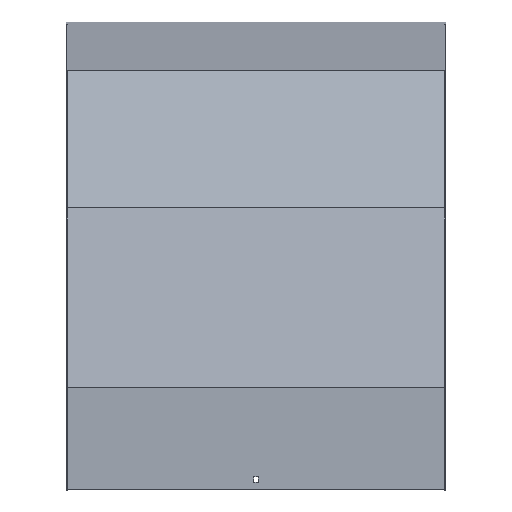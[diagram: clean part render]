
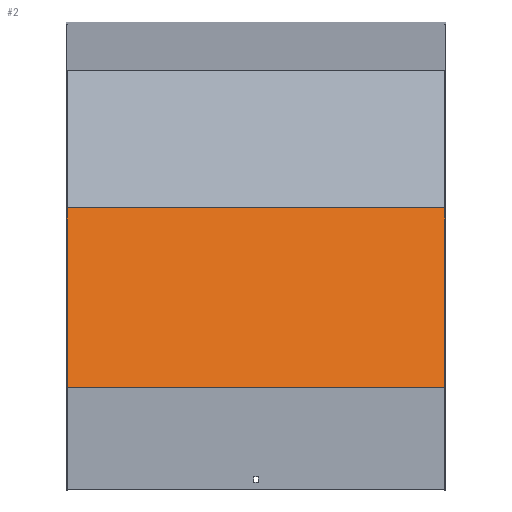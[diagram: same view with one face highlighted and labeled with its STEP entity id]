
A CAD part, top view. The second image highlights one B-rep face of the part: STEP entity #2.
In plain terms, the highlighted planar face has unit normal (0, 0.259, 0.966).
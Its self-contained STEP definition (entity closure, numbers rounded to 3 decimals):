
#2 = ADVANCED_FACE ( 'NONE', ( #961 ), #549, .F. ) ;
#42 = LINE ( 'NONE', #1075, #628 ) ;
#54 = AXIS2_PLACEMENT_3D ( 'NONE', #875, #1042, #367 ) ;
#81 = VECTOR ( 'NONE', #965, 1000. ) ;
#110 = CARTESIAN_POINT ( 'NONE',  ( -301.5, -562.743, 745.376 ) ) ;
#122 = CARTESIAN_POINT ( 'NONE',  ( 301.5, -562.743, 745.376 ) ) ;
#204 = ORIENTED_EDGE ( 'NONE', *, *, #1009, .F. ) ;
#212 = LINE ( 'NONE', #122, #594 ) ;
#286 = VERTEX_POINT ( 'NONE', #1020 ) ;
#367 = DIRECTION ( 'NONE',  ( 0., 0.966, -0.259 ) ) ;
#410 = CARTESIAN_POINT ( 'NONE',  ( -301.5, -275.871, 668.509 ) ) ;
#425 = LINE ( 'NONE', #765, #481 ) ;
#434 = CARTESIAN_POINT ( 'NONE',  ( 301.5, -275.871, 668.509 ) ) ;
#443 = VERTEX_POINT ( 'NONE', #410 ) ;
#453 = ORIENTED_EDGE ( 'NONE', *, *, #926, .F. ) ;
#481 = VECTOR ( 'NONE', #1104, 1000. ) ;
#549 = PLANE ( 'NONE',  #54 ) ;
#550 = ORIENTED_EDGE ( 'NONE', *, *, #805, .T. ) ;
#565 = EDGE_LOOP ( 'NONE', ( #880, #204, #453, #550 ) ) ;
#570 = VERTEX_POINT ( 'NONE', #608 ) ;
#594 = VECTOR ( 'NONE', #816, 1000. ) ;
#608 = CARTESIAN_POINT ( 'NONE',  ( 301.5, -562.743, 745.376 ) ) ;
#628 = VECTOR ( 'NONE', #634, 1000. ) ;
#634 = DIRECTION ( 'NONE',  ( 0., -0.966, 0.259 ) ) ;
#686 = EDGE_CURVE ( 'NONE', #443, #1038, #425, .T. ) ;
#765 = CARTESIAN_POINT ( 'NONE',  ( -301.5, -281.047, 669.896 ) ) ;
#805 = EDGE_CURVE ( 'NONE', #286, #443, #1026, .T. ) ;
#816 = DIRECTION ( 'NONE',  ( -1., 0., 0. ) ) ;
#875 = CARTESIAN_POINT ( 'NONE',  ( 301.5, -281.047, 669.896 ) ) ;
#880 = ORIENTED_EDGE ( 'NONE', *, *, #686, .T. ) ;
#926 = EDGE_CURVE ( 'NONE', #286, #570, #42, .T. ) ;
#961 = FACE_OUTER_BOUND ( 'NONE', #565, .T. ) ;
#965 = DIRECTION ( 'NONE',  ( -1., 0., 0. ) ) ;
#1009 = EDGE_CURVE ( 'NONE', #570, #1038, #212, .T. ) ;
#1020 = CARTESIAN_POINT ( 'NONE',  ( 301.5, -275.871, 668.509 ) ) ;
#1026 = LINE ( 'NONE', #434, #81 ) ;
#1038 = VERTEX_POINT ( 'NONE', #110 ) ;
#1042 = DIRECTION ( 'NONE',  ( 0., -0.259, -0.966 ) ) ;
#1075 = CARTESIAN_POINT ( 'NONE',  ( 301.5, -281.047, 669.896 ) ) ;
#1104 = DIRECTION ( 'NONE',  ( 0., -0.966, 0.259 ) ) ;
